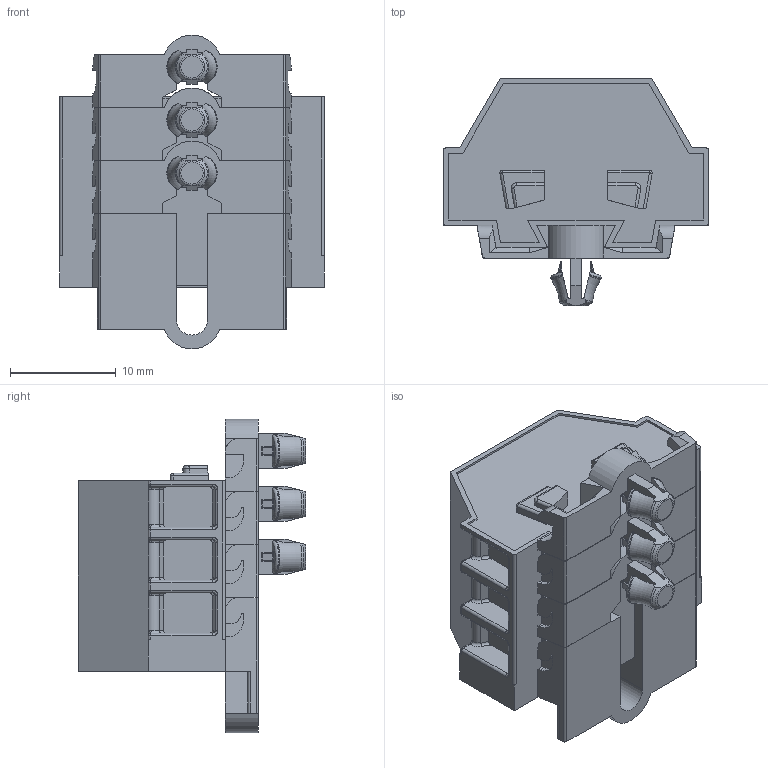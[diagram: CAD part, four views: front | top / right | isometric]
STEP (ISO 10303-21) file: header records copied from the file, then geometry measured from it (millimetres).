
FILE_DESCRIPTION((''),'2;1');
FILE_NAME('DS240-03_SW0001','2019-06-11T',('zhenbing.lai'),(''),'CREO PARAMETRIC BY PTC INC, 2016260','CREO PARAMETRIC BY PTC INC, 2016260','');
FILE_SCHEMA(('CONFIG_CONTROL_DESIGN'));
Length unit declared in the file: millimetre
Products named in the file (1): DS240-03_SW0001
Bounding box: 25 x 21.5 x 29.6 mm (x, y, z)
Volume: 6234.2 mm3; surface area: 3665.5 mm2
Topology: 1 solids, 5 shells, 788 faces, 2128 edges, 1352 vertices
Faces by surface type: plane 451, cylinder 213, bspline 80, torus 30, sphere 14
Entity records: 29079 total; most frequent: CARTESIAN_POINT 10400, ORIENTED_EDGE 4232, DIRECTION 3329, EDGE_CURVE 2116, VECTOR 1403, LINE 1403, VERTEX_POINT 1352, AXIS2_PLACEMENT_3D 963
